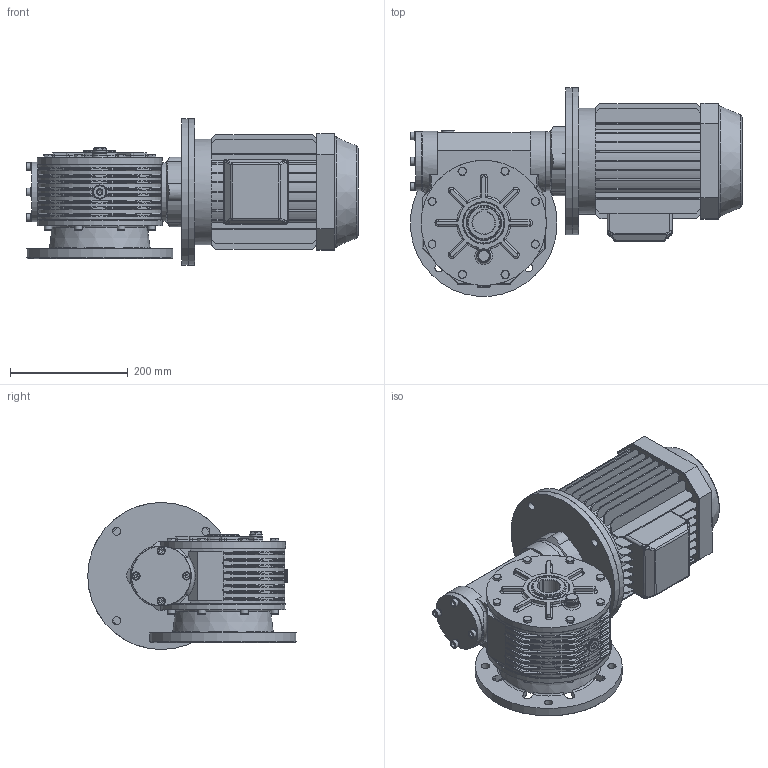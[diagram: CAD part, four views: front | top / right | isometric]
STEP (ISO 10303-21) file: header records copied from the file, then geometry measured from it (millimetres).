
FILE_DESCRIPTION((''),'2;1');
FILE_NAME('Y:\Archivi Inventor\Prog_01\GRAND_50\complessivi\Figurini\MRV50 sito\100l\mrv50_F1_100L_B5.stp','2013-02-08T10:05:30',('tech3'),(''),'Autodesk Inventor 2013','Autodesk Inventor 2013','');
FILE_SCHEMA(('AUTOMOTIVE_DESIGN { 1 0 10303 214 1 1 1 1 }'));
Length unit declared in the file: millimetre
Products named in the file (20): mrv50_100_112b5; mrv50_fig; Figurino_carcassa_MRV50; 0105028; 0105029; figurino_corona_MRV50; Guarnizione 3_8 GAS; Tappo 3_8 GAS_esagn_incsst; figurino_0105009; ISO 4017 M8 x 20; 55_70_8; fig_0105002; figurino_0105003; ISO 4762 M8 x 16; Tappo3_8 GAS; UNI 6592 8.4 x 14; UNI 5931  M 8 x  25; 0105006; DIN EN ISO 4762 M8 x 25; motori B5 100
Assembly tree (48 placements, depth 3):
  mrv50_100_112b5
    mrv50_fig
      Figurino_carcassa_MRV50
      0105028  x2
      0105029  x2
      figurino_corona_MRV50
      Guarnizione 3_8 GAS  x3
      Tappo 3_8 GAS_esagn_incsst  x2
      figurino_0105009
      ISO 4017 M8 x 20  x8
      55_70_8  x2
      fig_0105002
      figurino_0105003
      ISO 4762 M8 x 16  x8
      Tappo3_8 GAS
      UNI 6592 8.4 x 14  x4
      UNI 5931  M 8 x  25  x4
    0105006
    DIN EN ISO 4762 M8 x 25  x4
    motori B5 100
Bounding box: 564.8 x 354.52 x 250 mm (x, y, z)
Volume: 13663175.9 mm3; surface area: 1548511.1 mm2
Topology: 49 solids, 65 shells, 2241 faces, 5512 edges, 3305 vertices
Faces by surface type: plane 946, cylinder 668, torus 217, cone 188, bspline 156, sphere 66
Full cylindrical faces by diameter (mm): 2 x2, 6.647 x24, 8 x26, 8.4 x4, 8.5 x48, 11.63 x8, 13 x20, 13.046 x1, 13.5 x4, 14 x8, 14.95 x3, 15 x4, 16.3 x3, 16.5 x2, 22 x6, 24 x2, 28 x1, 55 x1, 60 x1, 66.4 x2, 69 x2, 70 x5, 72 x4, 73 x2, 75 x1, 80 x1, 90 x1, 99.5 x2, 100 x1, 101 x1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
Entity records: 62941 total; most frequent: CARTESIAN_POINT 20267, DIRECTION 8834, ORIENTED_EDGE 8290, EDGE_CURVE 4145, AXIS2_PLACEMENT_3D 3485, VERTEX_POINT 2684, EDGE_LOOP 2229, VECTOR 1864
